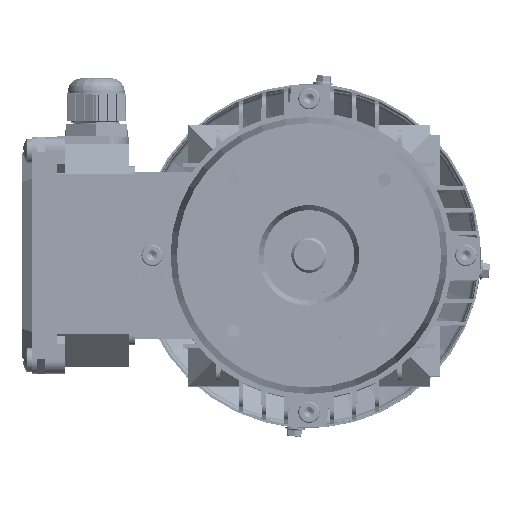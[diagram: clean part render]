
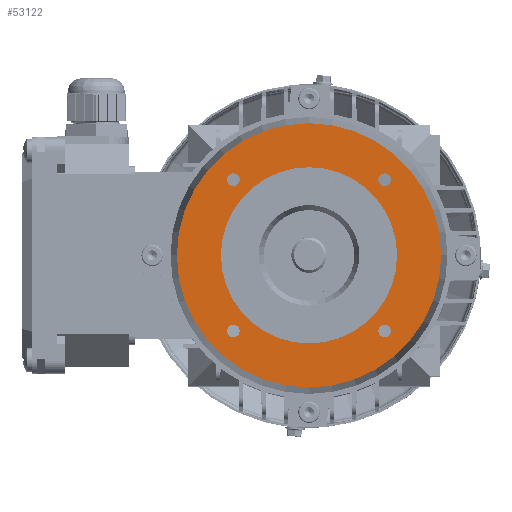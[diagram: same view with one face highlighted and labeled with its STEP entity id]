
A CAD part, top view. The second image highlights one B-rep face of the part: STEP entity #53122.
In plain terms, the highlighted planar face has unit normal (0, 0, 1).
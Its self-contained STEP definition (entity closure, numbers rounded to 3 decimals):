
#415 = DIRECTION ( 'NONE',  ( 0., 0., 1. ) ) ;
#483 = CARTESIAN_POINT ( 'NONE',  ( 0., 0., -2.5 ) ) ;
#513 = AXIS2_PLACEMENT_3D ( 'NONE', #46463, #117622, #56736 ) ;
#968 = AXIS2_PLACEMENT_3D ( 'NONE', #107036, #46069, #117236 ) ;
#1324 = ORIENTED_EDGE ( 'NONE', *, *, #101932, .F. ) ;
#1913 = AXIS2_PLACEMENT_3D ( 'NONE', #55142, #126257, #65353 ) ;
#2761 = CARTESIAN_POINT ( 'NONE',  ( -35., 0., -2.5 ) ) ;
#4871 = VERTEX_POINT ( 'NONE', #78736 ) ;
#6407 = FACE_BOUND ( 'NONE', #10662, .T. ) ;
#7305 = AXIS2_PLACEMENT_3D ( 'NONE', #72047, #11110, #82276 ) ;
#8444 = ORIENTED_EDGE ( 'NONE', *, *, #87474, .F. ) ;
#8472 = CARTESIAN_POINT ( 'NONE',  ( 30.052, -30.052, -2.5 ) ) ;
#9162 = EDGE_CURVE ( 'NONE', #100584, #4871, #88710, .T. ) ;
#9308 = EDGE_CURVE ( 'NONE', #4871, #100584, #36148, .T. ) ;
#10662 = EDGE_LOOP ( 'NONE', ( #43474, #125017 ) ) ;
#10721 = DIRECTION ( 'NONE',  ( 1., 0., 0. ) ) ;
#11110 = DIRECTION ( 'NONE',  ( 0., 0., 1. ) ) ;
#11191 = DIRECTION ( 'NONE',  ( 0., 0., 1. ) ) ;
#12101 = ORIENTED_EDGE ( 'NONE', *, *, #129182, .F. ) ;
#12353 = ORIENTED_EDGE ( 'NONE', *, *, #100696, .F. ) ;
#13170 = DIRECTION ( 'NONE',  ( 0., 0., 1. ) ) ;
#14891 = DIRECTION ( 'NONE',  ( 0., 0., 1. ) ) ;
#14981 = CIRCLE ( 'NONE', #513, 35. ) ;
#15143 = CARTESIAN_POINT ( 'NONE',  ( -52.5, 0., -2.5 ) ) ;
#15211 = AXIS2_PLACEMENT_3D ( 'NONE', #31582, #52974, #124045 ) ;
#18703 = DIRECTION ( 'NONE',  ( 1., 0., 0. ) ) ;
#19417 = EDGE_LOOP ( 'NONE', ( #12353, #1324 ) ) ;
#20014 = CARTESIAN_POINT ( 'NONE',  ( -27.552, 30.052, -2.5 ) ) ;
#20672 = VERTEX_POINT ( 'NONE', #115184 ) ;
#26655 = ORIENTED_EDGE ( 'NONE', *, *, #125758, .F. ) ;
#26992 = CARTESIAN_POINT ( 'NONE',  ( 30.052, 30.052, -2.5 ) ) ;
#27605 = CARTESIAN_POINT ( 'NONE',  ( 27.552, 30.052, -2.5 ) ) ;
#28318 = CARTESIAN_POINT ( 'NONE',  ( 35., 0., -2.5 ) ) ;
#30255 = FACE_BOUND ( 'NONE', #99517, .T. ) ;
#31582 = CARTESIAN_POINT ( 'NONE',  ( 35., 0., -2.5 ) ) ;
#34257 = VERTEX_POINT ( 'NONE', #78690 ) ;
#36148 = CIRCLE ( 'NONE', #7305, 2.5 ) ;
#36837 = CIRCLE ( 'NONE', #49604, 2.5 ) ;
#37272 = DIRECTION ( 'NONE',  ( 1., 0., 0. ) ) ;
#37536 = EDGE_LOOP ( 'NONE', ( #8444, #77000 ) ) ;
#40217 = CIRCLE ( 'NONE', #43034, 2.5 ) ;
#42696 = PLANE ( 'NONE',  #15211 ) ;
#43034 = AXIS2_PLACEMENT_3D ( 'NONE', #60893, #131920, #71104 ) ;
#43474 = ORIENTED_EDGE ( 'NONE', *, *, #9162, .F. ) ;
#44515 = VERTEX_POINT ( 'NONE', #27605 ) ;
#45082 = CIRCLE ( 'NONE', #1913, 52.5 ) ;
#46069 = DIRECTION ( 'NONE',  ( 0., 0., 1. ) ) ;
#46463 = CARTESIAN_POINT ( 'NONE',  ( 0., 0., -2.5 ) ) ;
#47299 = CIRCLE ( 'NONE', #61420, 35. ) ;
#48912 = ORIENTED_EDGE ( 'NONE', *, *, #106349, .F. ) ;
#49509 = CARTESIAN_POINT ( 'NONE',  ( 32.552, -30.052, -2.5 ) ) ;
#49604 = AXIS2_PLACEMENT_3D ( 'NONE', #61387, #415, #71583 ) ;
#50795 = AXIS2_PLACEMENT_3D ( 'NONE', #8472, #79653, #18703 ) ;
#52974 = DIRECTION ( 'NONE',  ( 0., 0., 1. ) ) ;
#52984 = CIRCLE ( 'NONE', #113576, 2.5 ) ;
#53122 = ADVANCED_FACE ( 'NONE', ( #6407, #84382, #57332, #30255, #111476, #60564 ), #42696, .T. ) ;
#55142 = CARTESIAN_POINT ( 'NONE',  ( 0., 0., -2.5 ) ) ;
#55255 = VERTEX_POINT ( 'NONE', #2761 ) ;
#56736 = DIRECTION ( 'NONE',  ( 1., 0., 0. ) ) ;
#57332 = FACE_BOUND ( 'NONE', #37536, .T. ) ;
#58005 = EDGE_CURVE ( 'NONE', #93481, #34257, #45082, .T. ) ;
#60564 = FACE_BOUND ( 'NONE', #101385, .T. ) ;
#60893 = CARTESIAN_POINT ( 'NONE',  ( -30.052, -30.052, -2.5 ) ) ;
#61387 = CARTESIAN_POINT ( 'NONE',  ( 30.052, 30.052, -2.5 ) ) ;
#61420 = AXIS2_PLACEMENT_3D ( 'NONE', #483, #71658, #10721 ) ;
#62568 = VERTEX_POINT ( 'NONE', #20014 ) ;
#65236 = CARTESIAN_POINT ( 'NONE',  ( -27.552, -30.052, -2.5 ) ) ;
#65353 = DIRECTION ( 'NONE',  ( 1., 0., 0. ) ) ;
#65721 = EDGE_CURVE ( 'NONE', #34257, #93481, #99662, .T. ) ;
#68162 = EDGE_CURVE ( 'NONE', #115622, #62568, #52984, .T. ) ;
#70514 = VERTEX_POINT ( 'NONE', #65236 ) ;
#71104 = DIRECTION ( 'NONE',  ( 1., 0., 0. ) ) ;
#71583 = DIRECTION ( 'NONE',  ( 1., 0., 0. ) ) ;
#71658 = DIRECTION ( 'NONE',  ( 0., 0., 1. ) ) ;
#72047 = CARTESIAN_POINT ( 'NONE',  ( 30.052, -30.052, -2.5 ) ) ;
#72135 = CARTESIAN_POINT ( 'NONE',  ( -30.052, -30.052, -2.5 ) ) ;
#74076 = CARTESIAN_POINT ( 'NONE',  ( 0., 0., -2.5 ) ) ;
#75827 = CARTESIAN_POINT ( 'NONE',  ( -30.052, 30.052, -2.5 ) ) ;
#76467 = CARTESIAN_POINT ( 'NONE',  ( -32.552, 30.052, -2.5 ) ) ;
#76648 = ORIENTED_EDGE ( 'NONE', *, *, #58005, .T. ) ;
#77000 = ORIENTED_EDGE ( 'NONE', *, *, #68162, .F. ) ;
#77647 = CIRCLE ( 'NONE', #85117, 2.5 ) ;
#78690 = CARTESIAN_POINT ( 'NONE',  ( 52.5, 0., -2.5 ) ) ;
#78736 = CARTESIAN_POINT ( 'NONE',  ( 27.552, -30.052, -2.5 ) ) ;
#79653 = DIRECTION ( 'NONE',  ( 0., 0., 1. ) ) ;
#81414 = EDGE_LOOP ( 'NONE', ( #123931, #76648 ) ) ;
#82276 = DIRECTION ( 'NONE',  ( 1., 0., 0. ) ) ;
#82369 = DIRECTION ( 'NONE',  ( 1., 0., 0. ) ) ;
#84303 = DIRECTION ( 'NONE',  ( 1., 0., 0. ) ) ;
#84382 = FACE_BOUND ( 'NONE', #19417, .T. ) ;
#85117 = AXIS2_PLACEMENT_3D ( 'NONE', #26992, #98211, #37272 ) ;
#85495 = CARTESIAN_POINT ( 'NONE',  ( 32.552, 30.052, -2.5 ) ) ;
#86011 = DIRECTION ( 'NONE',  ( 1., 0., 0. ) ) ;
#86081 = EDGE_CURVE ( 'NONE', #55255, #88477, #47299, .T. ) ;
#87474 = EDGE_CURVE ( 'NONE', #62568, #115622, #105916, .T. ) ;
#88477 = VERTEX_POINT ( 'NONE', #28318 ) ;
#88710 = CIRCLE ( 'NONE', #50795, 2.5 ) ;
#92666 = CIRCLE ( 'NONE', #107775, 2.5 ) ;
#93481 = VERTEX_POINT ( 'NONE', #15143 ) ;
#95832 = VERTEX_POINT ( 'NONE', #85495 ) ;
#98211 = DIRECTION ( 'NONE',  ( 0., 0., 1. ) ) ;
#99517 = EDGE_LOOP ( 'NONE', ( #26655, #48912 ) ) ;
#99662 = CIRCLE ( 'NONE', #106585, 52.5 ) ;
#100584 = VERTEX_POINT ( 'NONE', #49509 ) ;
#100696 = EDGE_CURVE ( 'NONE', #70514, #20672, #92666, .T. ) ;
#101385 = EDGE_LOOP ( 'NONE', ( #12101, #122645 ) ) ;
#101932 = EDGE_CURVE ( 'NONE', #20672, #70514, #40217, .T. ) ;
#105916 = CIRCLE ( 'NONE', #968, 2.5 ) ;
#106349 = EDGE_CURVE ( 'NONE', #44515, #95832, #77647, .T. ) ;
#106585 = AXIS2_PLACEMENT_3D ( 'NONE', #74076, #13170, #84303 ) ;
#107036 = CARTESIAN_POINT ( 'NONE',  ( -30.052, 30.052, -2.5 ) ) ;
#107775 = AXIS2_PLACEMENT_3D ( 'NONE', #72135, #11191, #82369 ) ;
#111476 = FACE_OUTER_BOUND ( 'NONE', #81414, .T. ) ;
#113576 = AXIS2_PLACEMENT_3D ( 'NONE', #75827, #14891, #86011 ) ;
#115184 = CARTESIAN_POINT ( 'NONE',  ( -32.552, -30.052, -2.5 ) ) ;
#115622 = VERTEX_POINT ( 'NONE', #76467 ) ;
#117236 = DIRECTION ( 'NONE',  ( 1., 0., 0. ) ) ;
#117622 = DIRECTION ( 'NONE',  ( 0., 0., 1. ) ) ;
#122645 = ORIENTED_EDGE ( 'NONE', *, *, #86081, .F. ) ;
#123931 = ORIENTED_EDGE ( 'NONE', *, *, #65721, .T. ) ;
#124045 = DIRECTION ( 'NONE',  ( 1., 0., 0. ) ) ;
#125017 = ORIENTED_EDGE ( 'NONE', *, *, #9308, .F. ) ;
#125758 = EDGE_CURVE ( 'NONE', #95832, #44515, #36837, .T. ) ;
#126257 = DIRECTION ( 'NONE',  ( 0., 0., 1. ) ) ;
#129182 = EDGE_CURVE ( 'NONE', #88477, #55255, #14981, .T. ) ;
#131920 = DIRECTION ( 'NONE',  ( 0., 0., 1. ) ) ;
